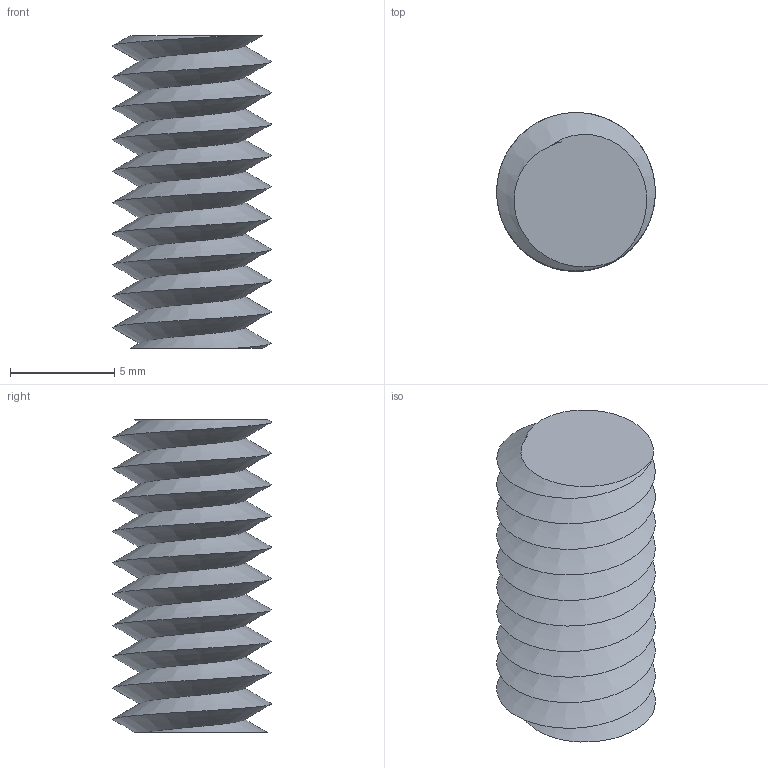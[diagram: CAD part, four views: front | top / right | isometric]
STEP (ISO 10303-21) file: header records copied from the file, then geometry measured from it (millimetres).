
FILE_DESCRIPTION(/* description */ (''),/* implementation_level */ '2;1');
FILE_NAME(/* name */ '/Users/paulokiefe/Documents/Current/OpenSTEM/Dimensions and templates/Thread 15 mm - female (stackable 10x thread pitch w. offset) v3.step',/* time_stamp */ '2018-10-30T11:28:15+01:00',/* author */ ('operations8TLKW'),/* organization */ (''),/* preprocessor_version */ 'ST-DEVELOPER v17.2',/* originating_system */ 'Autodesk Translation Framework v7.6.0.251',/* authorisation */ '');
FILE_SCHEMA (('AUTOMOTIVE_DESIGN { 1 0 10303 214 3 1 1 }'));
Length unit declared in the file: millimetre
Products named in the file (1): Thread 15 mm - female (stackable 10x thread pitch w. offset)
Bounding box: 7.6 x 7.61 x 15 mm (x, y, z)
Volume: 474.5 mm3; surface area: 658.1 mm2
Topology: 1 solids, 1 shells, 4 faces, 6 edges, 4 vertices
Faces by surface type: plane 2, bspline 2
Entity records: 1774 total; most frequent: CARTESIAN_POINT 1684, ORIENTED_EDGE 12, B_SPLINE_CURVE_WITH_KNOTS 6, EDGE_CURVE 6, DIRECTION 6, FACE_OUTER_BOUND 4, EDGE_LOOP 4, VERTEX_POINT 4
